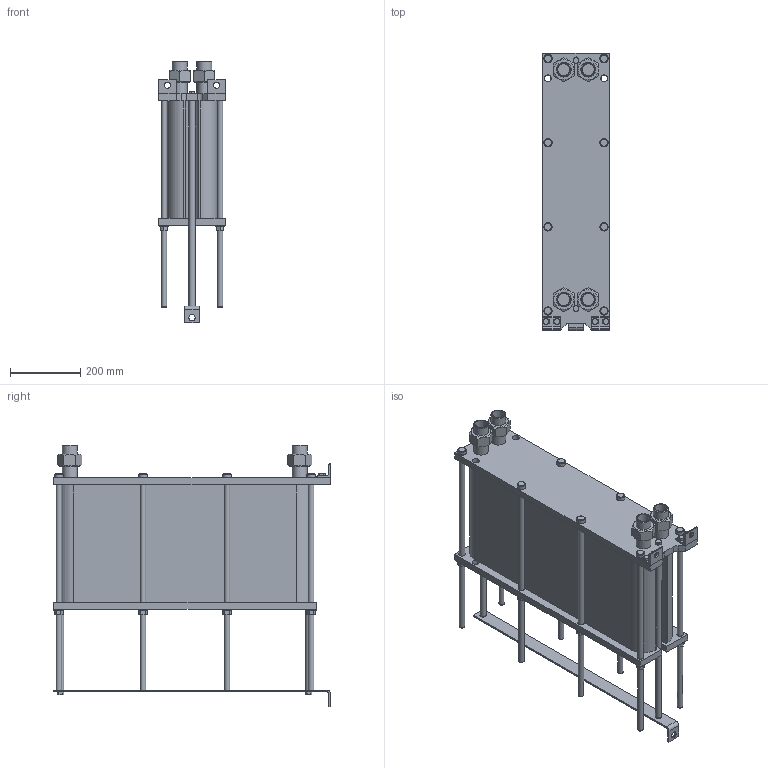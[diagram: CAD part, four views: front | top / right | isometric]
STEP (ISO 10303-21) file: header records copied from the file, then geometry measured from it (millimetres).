
FILE_DESCRIPTION(/* description */ (''),/* implementation_level */ '2;1');
FILE_NAME(/* name */ 'C:\Users\zhuro\Desktop\ENCO\TO\ЭН-008\ЭН-0,5-008-108-1.stp',/* time_stamp */ '2022-06-06T10:55:39+03:00',/* author */ ('zhuro'),/* organization */ (''),/* preprocessor_version */ 'ST-DEVELOPER v18.1',/* originating_system */ 'Autodesk Inventor 2022',/* authorisation */ '');
FILE_SCHEMA (('AUTOMOTIVE_DESIGN { 1 0 10303 214 3 1 1 }'));
Length unit declared in the file: millimetre
Products named in the file (1): ЭН-0,5-008-108-1
Bounding box: 190 x 790 x 747.4 mm (x, y, z)
Volume: 41132865.5 mm3; surface area: 2089195.4 mm2
Topology: 40 solids, 40 shells, 428 faces, 924 edges, 606 vertices
Faces by surface type: plane 273, cylinder 109, cone 40, torus 6
Full cylindrical faces by diameter (mm): 12 x6, 14 x2, 16 x20, 17 x8, 18 x19, 20 x5, 24 x8, 28 x8, 34.3 x8, 42.3 x8
Entity records: 15843 total; most frequent: CARTESIAN_POINT 5991, DIRECTION 1984, ORIENTED_EDGE 1848, EDGE_CURVE 924, AXIS2_PLACEMENT_3D 715, VERTEX_POINT 606, LINE 554, VECTOR 554
